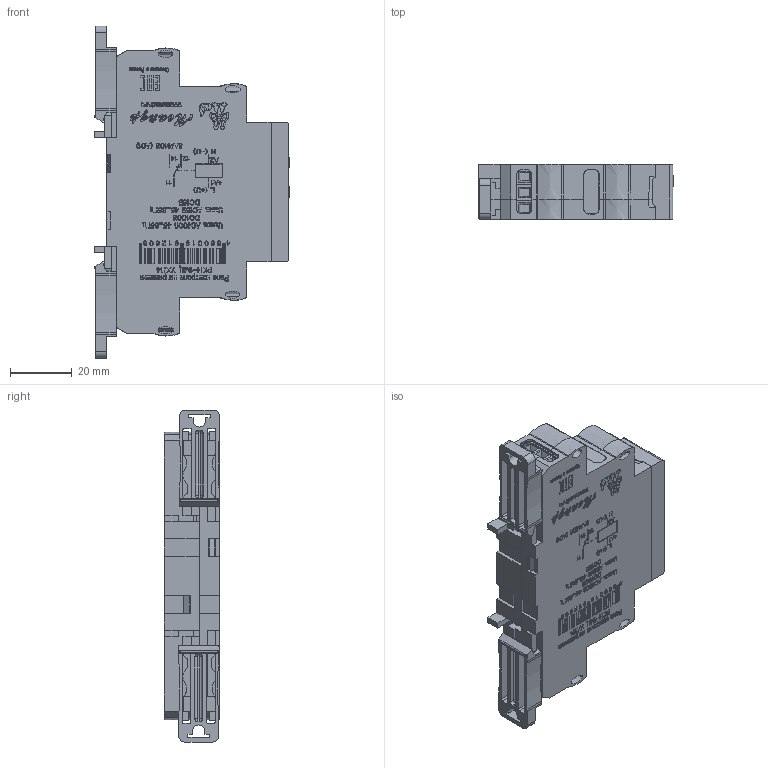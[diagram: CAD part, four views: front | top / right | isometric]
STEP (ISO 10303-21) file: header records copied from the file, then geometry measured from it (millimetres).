
FILE_DESCRIPTION(('STEP AP203'), '1');
FILE_NAME('ﾑ碚濱ﾐﾊﾍ-1ﾌﾖ', '', ('UNSPECIFIED'), ('UNSPECIFIED'), 'ASCON STEP Converter 1.6', 'ASCON Math Kernel', '');
FILE_SCHEMA(('CONFIG_CONTROL_DESIGN'));
Length unit declared in the file: millimetre
Products named in the file (19): Case13-18-23mm_2step_Half_v01a_Build20140909_1552_6.5mm; Case13-18-23mm_2step_Half_v01a_Build20140909_1552_11.25mm; Case13-18-23mm_2step_plug_v01_Build20140909_1552_18mm; Case13-18-23mm_2step_Lock_v01a_Build20140909_1552; Клемма DG128-5.08-3; Клемма DG128-5.08-1_Џｮ гｬｮｫзｭЁо; Case13-18-23mm_2step_Face_v01_Build20140909_1552_18mm
Assembly tree (26 placements, depth 3):
  (unnamed)
    Case13-18-23mm_2step_Half_v01a_Build20140909_1552_6.5mm
    Case13-18-23mm_2step_Half_v01a_Build20140909_1552_11.25mm
    Case13-18-23mm_2step_plug_v01_Build20140909_1552_18mm  x4
    Case13-18-23mm_2step_Lock_v01a_Build20140909_1552  x2
    (unnamed)  x2
    Клемма DG128-5.08-3
      Клемма DG128-5.08-1_Џｮ гｬｮｫзｭЁо  x3
    (unnamed)
      Case13-18-23mm_2step_Face_v01_Build20140909_1552_18mm
      (unnamed)
      (unnamed)
      (unnamed)  x2
      (unnamed)
      (unnamed)
      (unnamed)
    (unnamed)
    (unnamed)
    (unnamed)
Bounding box: 62.95 x 17.76 x 107.2 mm (x, y, z)
Volume: 24146.4 mm3; surface area: 41049.7 mm2
Topology: 271 solids, 271 shells, 10100 faces, 28512 edges, 18962 vertices
Faces by surface type: plane 7517, extrusion 2251, cylinder 290, cone 24, sphere 8, torus 6, bspline 4
Full cylindrical faces by diameter (mm): 1.238 x3, 2.2 x2, 2.4 x1, 3.5 x2, 3.9 x7, 4 x2
Entity records: 396544 total; most frequent: CARTESIAN_POINT 77598, ORIENTED_EDGE 55216, DIRECTION 40852, EDGE_CURVE 27608, VECTOR 24852, LINE 22601, VERTEX_POINT 18389, EDGE_LOOP 10025
